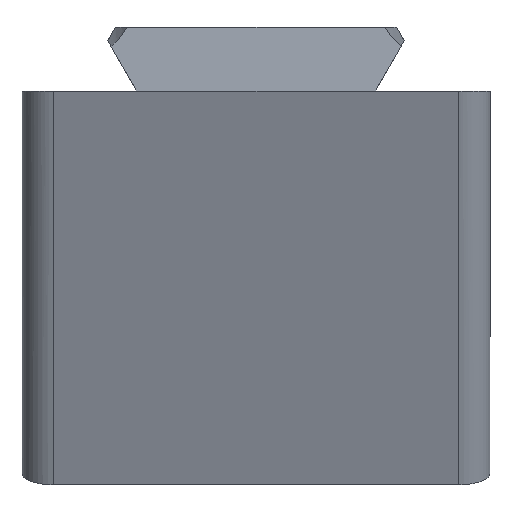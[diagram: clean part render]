
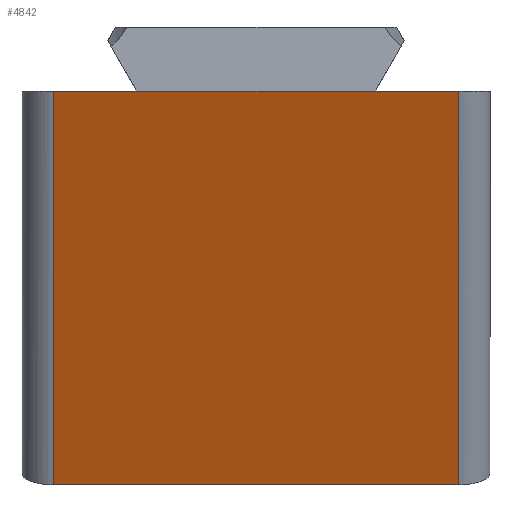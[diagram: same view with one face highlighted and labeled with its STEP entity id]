
A CAD part, left-side view. The second image highlights one B-rep face of the part: STEP entity #4842.
In plain terms, the highlighted planar face has unit normal (-0.927, 0, -0.375).
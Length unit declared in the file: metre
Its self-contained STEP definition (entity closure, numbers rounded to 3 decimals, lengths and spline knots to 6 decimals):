
#728=ORIENTED_EDGE('',*,*,#1968,.T.);
#729=ORIENTED_EDGE('',*,*,#2176,.T.);
#730=ORIENTED_EDGE('',*,*,#1900,.F.);
#731=ORIENTED_EDGE('',*,*,#2177,.T.);
#732=ORIENTED_EDGE('',*,*,#1982,.T.);
#733=ORIENTED_EDGE('',*,*,#2172,.T.);
#1900=EDGE_CURVE('',#2640,#2641,#3133,.T.);
#1968=EDGE_CURVE('',#2699,#2706,#3176,.T.);
#1982=EDGE_CURVE('',#2717,#2691,#3183,.T.);
#2172=EDGE_CURVE('',#2691,#2699,#3267,.T.);
#2176=EDGE_CURVE('',#2706,#2641,#3268,.T.);
#2177=EDGE_CURVE('',#2640,#2717,#3269,.F.);
#2640=VERTEX_POINT('',#6674);
#2641=VERTEX_POINT('',#6676);
#2691=VERTEX_POINT('',#6783);
#2699=VERTEX_POINT('',#6801);
#2706=VERTEX_POINT('',#6818);
#2717=VERTEX_POINT('',#6844);
#3133=LINE('',#6675,#3603);
#3176=LINE('',#6819,#3646);
#3183=LINE('',#6843,#3653);
#3267=LINE('',#7329,#3737);
#3268=LINE('',#7339,#3738);
#3269=LINE('',#7340,#3739);
#3603=VECTOR('',#5481,1.);
#3646=VECTOR('',#5594,1.);
#3653=VECTOR('',#5615,1.);
#3737=VECTOR('',#5813,1.);
#3738=VECTOR('',#5828,1.);
#3739=VECTOR('',#5829,1.);
#4112=EDGE_LOOP('',(#728,#729,#730,#731,#732,#733));
#4418=FACE_BOUND('',#4112,.T.);
#4697=PLANE('',#5214);
#4842=ADVANCED_FACE('',(#4418),#4697,.F.);
#5214=AXIS2_PLACEMENT_3D('',#7338,#5826,#5827);
#5481=DIRECTION('',(0.,1.,0.));
#5594=DIRECTION('',(0.,1.,0.));
#5615=DIRECTION('',(0.,1.,0.));
#5813=DIRECTION('',(0.,1.,0.));
#5826=DIRECTION('',(0.927,0.,0.375));
#5827=DIRECTION('',(0.375,0.,-0.927));
#5828=DIRECTION('',(0.375,0.,-0.927));
#5829=DIRECTION('',(0.375,0.,-0.927));
#6674=CARTESIAN_POINT('',(0.010197,-0.013,-0.025239));
#6675=CARTESIAN_POINT('',(0.010197,-0.015,-0.025239));
#6676=CARTESIAN_POINT('',(0.010197,0.013,-0.025239));
#6783=CARTESIAN_POINT('',(0.,-0.007695,0.));
#6801=CARTESIAN_POINT('',(0.,0.007695,0.));
#6818=CARTESIAN_POINT('',(0.,0.013,0.));
#6819=CARTESIAN_POINT('',(0.,-0.015,0.));
#6843=CARTESIAN_POINT('',(0.,-0.015,0.));
#6844=CARTESIAN_POINT('',(0.,-0.013,0.));
#7329=CARTESIAN_POINT('',(0.,0.,0.));
#7338=CARTESIAN_POINT('',(0.005099,-0.015,-0.01262));
#7339=CARTESIAN_POINT('',(0.005099,0.013,-0.01262));
#7340=CARTESIAN_POINT('',(0.,-0.013,0.));
